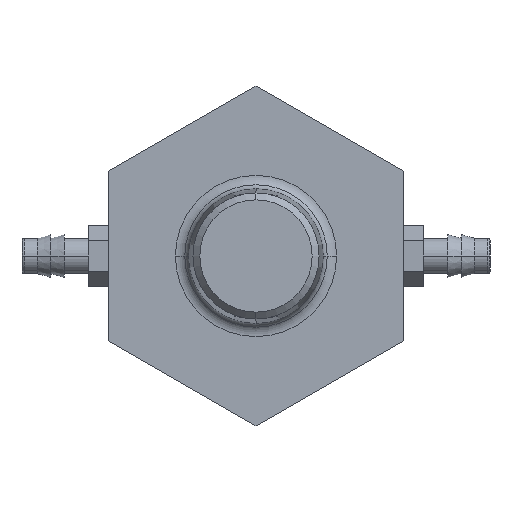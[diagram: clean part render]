
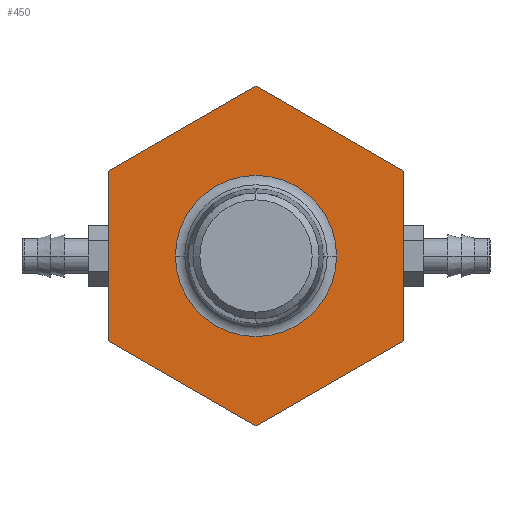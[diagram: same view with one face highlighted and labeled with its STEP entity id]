
A CAD part, left-side view. The second image highlights one B-rep face of the part: STEP entity #450.
In plain terms, the highlighted planar face has unit normal (-1, 0, 0).
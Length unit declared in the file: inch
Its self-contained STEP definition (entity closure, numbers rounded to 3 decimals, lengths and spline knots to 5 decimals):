
#200=DIRECTION('',(0.,0.866,-0.5));
#201=VECTOR('',#200,0.79386);
#202=CARTESIAN_POINT('',(-2.75,0.,0.79386));
#203=LINE('',#202,#201);
#204=DIRECTION('',(0.,0.866,0.5));
#205=VECTOR('',#204,0.79386);
#206=CARTESIAN_POINT('',(-2.75,-0.6875,0.39693));
#207=LINE('',#206,#205);
#208=DIRECTION('',(0.,0.,1.));
#209=VECTOR('',#208,0.79386);
#210=CARTESIAN_POINT('',(-2.75,-0.6875,-0.39693));
#211=LINE('',#210,#209);
#212=DIRECTION('',(0.,-0.866,0.5));
#213=VECTOR('',#212,0.79386);
#214=CARTESIAN_POINT('',(-2.75,0.,-0.79386));
#215=LINE('',#214,#213);
#216=DIRECTION('',(0.,-0.866,-0.5));
#217=VECTOR('',#216,0.79386);
#218=CARTESIAN_POINT('',(-2.75,0.6875,-0.39693));
#219=LINE('',#218,#217);
#220=DIRECTION('',(0.,0.,-1.));
#221=VECTOR('',#220,0.79386);
#222=CARTESIAN_POINT('',(-2.75,0.6875,0.39693));
#223=LINE('',#222,#221);
#224=CARTESIAN_POINT('',(-2.75,0.,0.));
#225=DIRECTION('',(1.,0.,0.));
#226=DIRECTION('',(0.,0.,1.));
#227=AXIS2_PLACEMENT_3D('',#224,#225,#226);
#229=CARTESIAN_POINT('',(-2.75,0.,0.));
#230=DIRECTION('',(1.,0.,0.));
#231=DIRECTION('',(0.,1.,0.));
#232=AXIS2_PLACEMENT_3D('',#229,#230,#231);
#234=CARTESIAN_POINT('',(-2.75,0.,0.));
#235=DIRECTION('',(1.,0.,0.));
#236=DIRECTION('',(0.,-1.,0.));
#237=AXIS2_PLACEMENT_3D('',#234,#235,#236);
#373=CARTESIAN_POINT('',(-2.75,0.,0.79386));
#374=CARTESIAN_POINT('',(-2.75,0.6875,0.39693));
#375=VERTEX_POINT('',#373);
#376=VERTEX_POINT('',#374);
#381=CARTESIAN_POINT('',(-2.75,0.6875,-0.39693));
#382=VERTEX_POINT('',#381);
#383=CARTESIAN_POINT('',(-2.75,-0.6875,0.39693));
#384=VERTEX_POINT('',#383);
#387=CARTESIAN_POINT('',(-2.75,0.,-0.79386));
#388=VERTEX_POINT('',#387);
#389=CARTESIAN_POINT('',(-2.75,-0.6875,-0.39693));
#390=VERTEX_POINT('',#389);
#405=CARTESIAN_POINT('',(-2.75,0.37658,0.));
#406=VERTEX_POINT('',#405);
#407=CARTESIAN_POINT('',(-2.75,-0.37658,0.));
#408=VERTEX_POINT('',#407);
#409=CARTESIAN_POINT('',(-2.75,0.,0.37658));
#410=VERTEX_POINT('',#409);
#423=CARTESIAN_POINT('',(-2.75,0.,0.));
#424=DIRECTION('',(-1.,0.,0.));
#425=DIRECTION('',(0.,0.,1.));
#426=AXIS2_PLACEMENT_3D('',#423,#424,#425);
#427=PLANE('',#426);
#429=ORIENTED_EDGE('',*,*,#428,.F.);
#431=ORIENTED_EDGE('',*,*,#430,.F.);
#433=ORIENTED_EDGE('',*,*,#432,.F.);
#435=ORIENTED_EDGE('',*,*,#434,.F.);
#437=ORIENTED_EDGE('',*,*,#436,.F.);
#439=ORIENTED_EDGE('',*,*,#438,.F.);
#440=EDGE_LOOP('',(#429,#431,#433,#435,#437,#439));
#441=FACE_OUTER_BOUND('',#440,.F.);
#443=ORIENTED_EDGE('',*,*,#442,.F.);
#445=ORIENTED_EDGE('',*,*,#444,.F.);
#447=ORIENTED_EDGE('',*,*,#446,.F.);
#448=EDGE_LOOP('',(#443,#445,#447));
#449=FACE_BOUND('',#448,.F.);
#228=CIRCLE('',#227,0.37658);
#233=CIRCLE('',#232,0.37658);
#238=CIRCLE('',#237,0.37658);
#428=EDGE_CURVE('',#375,#376,#203,.T.);
#430=EDGE_CURVE('',#384,#375,#207,.T.);
#432=EDGE_CURVE('',#390,#384,#211,.T.);
#434=EDGE_CURVE('',#388,#390,#215,.T.);
#436=EDGE_CURVE('',#382,#388,#219,.T.);
#438=EDGE_CURVE('',#376,#382,#223,.T.);
#442=EDGE_CURVE('',#410,#408,#228,.T.);
#444=EDGE_CURVE('',#406,#410,#233,.T.);
#446=EDGE_CURVE('',#408,#406,#238,.T.);
#450=ADVANCED_FACE('',(#441,#449),#427,.T.);
